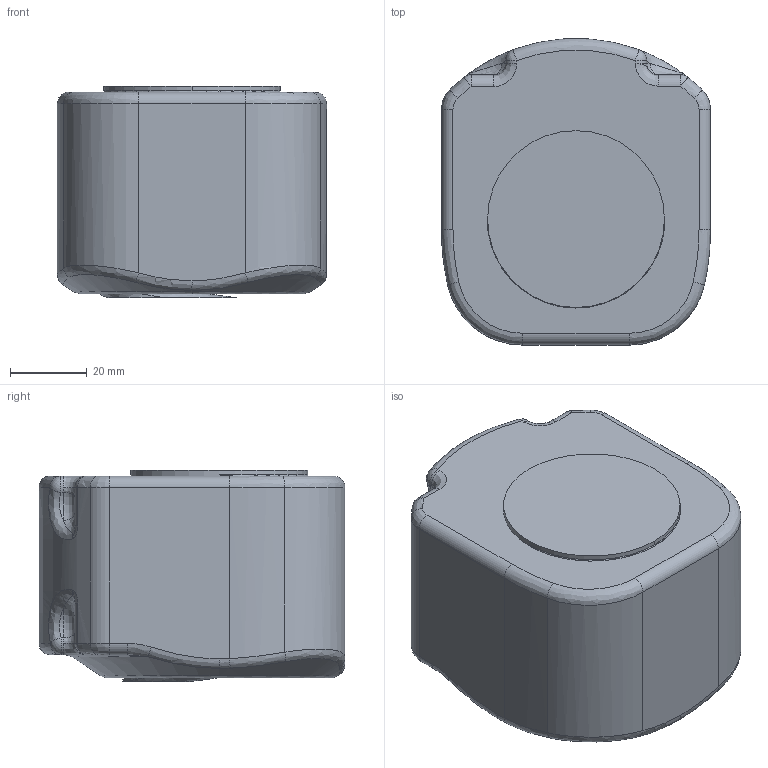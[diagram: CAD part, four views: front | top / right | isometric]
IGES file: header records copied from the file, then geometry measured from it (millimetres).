
Start section:  PTC IGES file: b_axis.igs
Global section: file name: b_axis.igs; native system: Creo Parametric by Parametric Technology Corporation; preprocessor: 2014000; author: Miyoshi_Nozomi; organization: Unknown; date: 20170420.143918; units: millimetre
Bounding box: 70 x 79.58 x 55 mm (x, y, z)
Volume: 255709.8 mm3; surface area: 22426.6 mm2
Topology: 1 solids, 1 shells, 114 faces, 259 edges, 149 vertices
Faces by surface type: revolution 65, bspline 49
